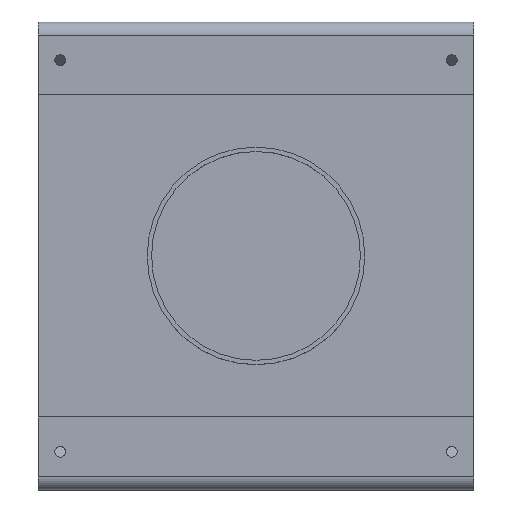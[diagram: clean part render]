
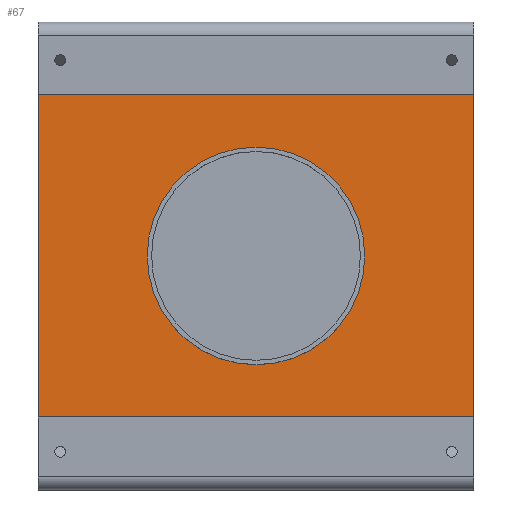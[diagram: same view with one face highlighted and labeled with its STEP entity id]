
A CAD part, top view. The second image highlights one B-rep face of the part: STEP entity #67.
In plain terms, the highlighted planar face has unit normal (0, 0, 1).
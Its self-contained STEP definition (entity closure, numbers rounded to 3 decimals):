
#26 = DIRECTION ( 'NONE',  ( 0., -1., 0. ) ) ;
#41 = DIRECTION ( 'NONE',  ( 1., 0., 0. ) ) ;
#45 = CARTESIAN_POINT ( 'NONE',  ( -100., -100., 5. ) ) ;
#67 = ADVANCED_FACE ( 'NONE', ( #1224, #359 ), #353, .F. ) ;
#68 = DIRECTION ( 'NONE',  ( -1., 0., 0. ) ) ;
#102 = ORIENTED_EDGE ( 'NONE', *, *, #808, .T. ) ;
#103 = CARTESIAN_POINT ( 'NONE',  ( 100., -74., 5. ) ) ;
#144 = DIRECTION ( 'NONE',  ( -1., 0., 0. ) ) ;
#161 = CIRCLE ( 'NONE', #964, 50. ) ;
#202 = AXIS2_PLACEMENT_3D ( 'NONE', #269, #1039, #68 ) ;
#258 = CARTESIAN_POINT ( 'NONE',  ( 0., 0., 5. ) ) ;
#269 = CARTESIAN_POINT ( 'NONE',  ( 0., 0., 5. ) ) ;
#317 = VECTOR ( 'NONE', #535, 1000. ) ;
#324 = VECTOR ( 'NONE', #853, 1000. ) ;
#336 = CARTESIAN_POINT ( 'NONE',  ( 50., 0., 5. ) ) ;
#349 = CARTESIAN_POINT ( 'NONE',  ( -100., 74., 5. ) ) ;
#353 = PLANE ( 'NONE',  #479 ) ;
#359 = FACE_OUTER_BOUND ( 'NONE', #1243, .T. ) ;
#378 = CARTESIAN_POINT ( 'NONE',  ( 100., 74., 5. ) ) ;
#384 = LINE ( 'NONE', #478, #324 ) ;
#428 = EDGE_CURVE ( 'NONE', #1093, #855, #384, .T. ) ;
#435 = VECTOR ( 'NONE', #26, 1000. ) ;
#476 = CARTESIAN_POINT ( 'NONE',  ( -50., 0., 5. ) ) ;
#478 = CARTESIAN_POINT ( 'NONE',  ( 100., -100., 5. ) ) ;
#479 = AXIS2_PLACEMENT_3D ( 'NONE', #258, #639, #541 ) ;
#507 = ORIENTED_EDGE ( 'NONE', *, *, #428, .T. ) ;
#531 = DIRECTION ( 'NONE',  ( 0., 0., 1. ) ) ;
#535 = DIRECTION ( 'NONE',  ( 1., 0., 0. ) ) ;
#541 = DIRECTION ( 'NONE',  ( -1., 0., 0. ) ) ;
#562 = VERTEX_POINT ( 'NONE', #678 ) ;
#579 = ORIENTED_EDGE ( 'NONE', *, *, #1228, .F. ) ;
#613 = EDGE_LOOP ( 'NONE', ( #1125, #815 ) ) ;
#621 = LINE ( 'NONE', #1014, #684 ) ;
#629 = CARTESIAN_POINT ( 'NONE',  ( -100., -74., 5. ) ) ;
#639 = DIRECTION ( 'NONE',  ( 0., 0., -1. ) ) ;
#671 = VERTEX_POINT ( 'NONE', #629 ) ;
#678 = CARTESIAN_POINT ( 'NONE',  ( -100., 74., 5. ) ) ;
#684 = VECTOR ( 'NONE', #41, 1000. ) ;
#716 = EDGE_CURVE ( 'NONE', #751, #903, #161, .T. ) ;
#751 = VERTEX_POINT ( 'NONE', #336 ) ;
#808 = EDGE_CURVE ( 'NONE', #671, #1093, #621, .T. ) ;
#815 = ORIENTED_EDGE ( 'NONE', *, *, #716, .F. ) ;
#853 = DIRECTION ( 'NONE',  ( 0., 1., 0. ) ) ;
#855 = VERTEX_POINT ( 'NONE', #378 ) ;
#903 = VERTEX_POINT ( 'NONE', #476 ) ;
#908 = EDGE_CURVE ( 'NONE', #903, #751, #1110, .T. ) ;
#964 = AXIS2_PLACEMENT_3D ( 'NONE', #999, #531, #144 ) ;
#997 = LINE ( 'NONE', #45, #435 ) ;
#999 = CARTESIAN_POINT ( 'NONE',  ( 0., 0., 5. ) ) ;
#1014 = CARTESIAN_POINT ( 'NONE',  ( -100., -74., 5. ) ) ;
#1039 = DIRECTION ( 'NONE',  ( 0., 0., 1. ) ) ;
#1093 = VERTEX_POINT ( 'NONE', #103 ) ;
#1110 = CIRCLE ( 'NONE', #202, 50. ) ;
#1125 = ORIENTED_EDGE ( 'NONE', *, *, #908, .F. ) ;
#1126 = ORIENTED_EDGE ( 'NONE', *, *, #1182, .T. ) ;
#1182 = EDGE_CURVE ( 'NONE', #562, #671, #997, .T. ) ;
#1214 = LINE ( 'NONE', #349, #317 ) ;
#1224 = FACE_BOUND ( 'NONE', #613, .T. ) ;
#1228 = EDGE_CURVE ( 'NONE', #562, #855, #1214, .T. ) ;
#1243 = EDGE_LOOP ( 'NONE', ( #579, #1126, #102, #507 ) ) ;
